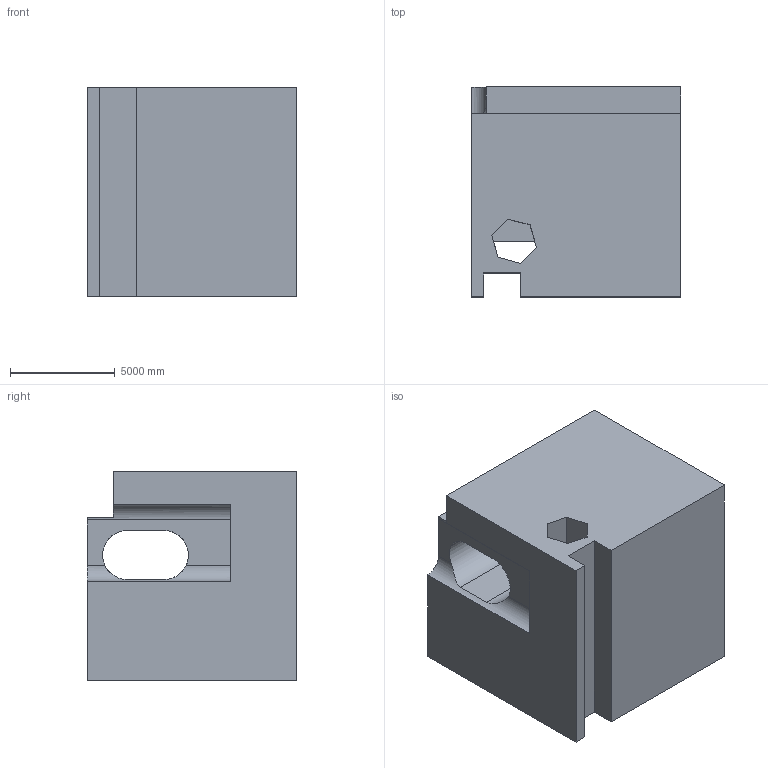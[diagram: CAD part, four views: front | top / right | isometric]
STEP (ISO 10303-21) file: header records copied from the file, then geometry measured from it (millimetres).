
FILE_DESCRIPTION (( 'STEP AP203' ), '1' );
FILE_NAME ('609.STEP', '2022-07-29T12:04:36', ( 'user' ), ( '' ), 'SwSTEP 2.0', 'SolidWorks 2021', '' );
FILE_SCHEMA (( 'CONFIG_CONTROL_DESIGN' ));
Length unit declared in the file: centimetre
Products named in the file (1): 609
Bounding box: 10000 x 10000 x 10000 mm (x, y, z)
Volume: 799187871752.1 mm3; surface area: 840840619.4 mm2
Topology: 1 solids, 1 shells, 39 faces, 106 edges, 70 vertices
Faces by surface type: plane 31, cylinder 8
Entity records: 1430 total; most frequent: CARTESIAN_POINT 344, ORIENTED_EDGE 212, DIRECTION 201, EDGE_CURVE 106, VECTOR 87, LINE 87, VERTEX_POINT 70, AXIS2_PLACEMENT_3D 57
